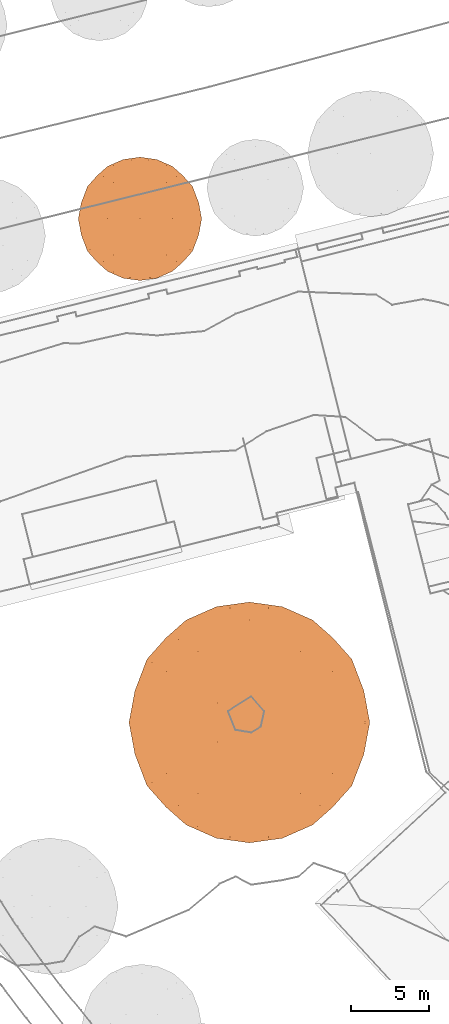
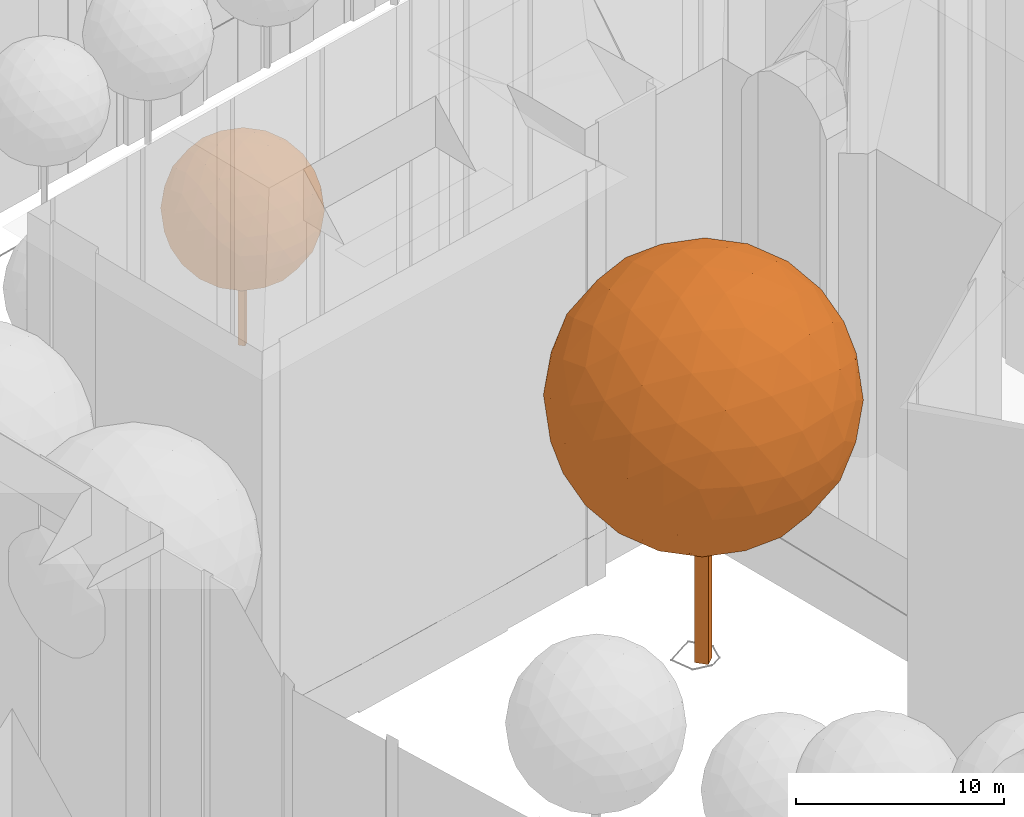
# Not in any storey, part 275 of 494: 2 proxies.
"""IFC2X3 model written with IfcOpenShell, lengths in metres."""

from ifc_helpers import new_model, si_unit, frame, origin_with_axes, place, context, subcontext, project, faceted_brep, element, save


model = new_model("IFC2X3")

# Units and contexts
model_context = context("Model", 3, precision=1e-05, world=origin_with_axes())
body_context = subcontext(model_context, "Body", "Model", "MODEL_VIEW")
ifc_project = project(units=[si_unit("AREAUNIT", "SQUARE_METRE"), si_unit("LENGTHUNIT", "METRE")], contexts=[model_context])

# Proxies
proxy_1_placement = place(None, frame((112.5617320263, 322.6537333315, 539.4587566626), z_axis=(0.0, 0.0, 1.0), x_axis=(1.0, 0.0, 0.0)))
element("IfcBuildingElementProxy", 1, at=proxy_1_placement, Name="Tree TR2 CD78", ObjectType="NOTDEFINED", context=body_context, shape_type="Brep", body=[
    faceted_brep([(0.0, 0.251183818, 0.0), (0.251183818, 0.0, 0.0), (0.0, -0.251183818, 0.0), (-0.251183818, 0.0, 0.0), (0.0, -0.251183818, 7.8911723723), (0.251183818, 0.0, 7.8911723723), (0.0, 0.251183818, 7.8911723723), (-0.251183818, 0.0, 7.8911723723)], [[[0, 1, 2]], [[2, 3, 0]], [[4, 5, 6]], [[6, 7, 4]], [[4, 7, 2]], [[2, 7, 3]], [[7, 6, 3]], [[3, 6, 0]], [[5, 4, 1]], [[1, 4, 2]], [[6, 5, 0]], [[0, 5, 1]]]),
    faceted_brep([(-2.0743174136, 3.3563160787, 7.8911723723), (-2.7373706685, 2.7699847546, 8.5249204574), (-1.7119447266, 3.4037328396, 8.9165983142), (-3.1920462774, 1.9727930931, 9.1104255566), (-2.3191573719, 2.7153167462, 9.5693304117), (-1.2192531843, 3.1920462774, 9.8639654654), (-3.4037328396, 1.0254259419, 9.603117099), (-2.7153167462, 1.6781580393, 10.2103297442), (-3.3563160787, 0.0, 9.965489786), (-2.7699847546, 0.633748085, 10.6285430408), (-1.9727930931, 1.2192531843, 11.0832186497), (-1.6781580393, 2.3191573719, 10.6064891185), (-0.633748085, 2.7373706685, 10.6611571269), (-1.0254259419, 1.7119447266, 11.2949052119), (0.0, 2.0743174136, 11.247488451), (-1.0781966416, 3.7954106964, 7.8911723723), (-0.6409993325, 3.752475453, 8.9283310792), (0.0, 3.9455861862, 7.8911723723), (0.0, 3.3563160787, 9.965489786), (0.633748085, 2.7373706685, 10.6611571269), (1.2192531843, 3.1920462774, 9.8639654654), (0.6409993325, 3.752475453, 8.9283310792), (1.0781966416, 3.7954106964, 7.8911723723), (1.7119447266, 3.4037328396, 8.9165983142), (2.0743174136, 3.3563160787, 7.8911723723), (-1.7119447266, 3.4037328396, 6.8657464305), (-0.6409993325, 3.752475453, 6.8540136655), (-1.2192531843, 3.1920462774, 5.9183792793), (0.6409993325, 3.752475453, 6.8540136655), (1.7119447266, 3.4037328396, 6.8657464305), (1.2192531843, 3.1920462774, 5.9183792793), (0.0, 3.3563160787, 5.8168549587), (-0.633748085, 2.7373706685, 5.1211876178), (0.633748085, 2.7373706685, 5.1211876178), (0.0, 2.0743174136, 4.5348562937), (-2.7373706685, 2.7699847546, 7.2574242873), (-2.3191573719, 2.7153167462, 6.213014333), (-3.1920462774, 1.9727930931, 6.671919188), (-1.6781580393, 2.3191573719, 5.1758556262), (-1.0254259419, 1.7119447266, 4.4874395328), (-1.9727930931, 1.2192531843, 4.699126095), (-2.7153167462, 1.6781580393, 5.5720150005), (-3.4037328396, 1.0254259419, 6.1792276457), (-2.7699847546, 0.633748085, 5.1538017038), (-3.3563160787, 0.0, 5.8168549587), (-3.3563160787, 2.0743174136, 7.8911723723), (-3.752475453, 1.0371587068, 7.2501730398), (-3.7954106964, 0.0, 6.8129757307), (-3.9455861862, 0.0, 7.8911723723), (-3.752475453, 1.0371587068, 8.5321717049), (-3.7954106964, 0.0, 8.969369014), (2.7373706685, 2.7699847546, 8.5249204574), (2.3191573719, 2.7153167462, 9.5693304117), (3.1920462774, 1.9727930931, 9.1104255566), (1.6781580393, 2.3191573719, 10.6064891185), (1.0254259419, 1.7119447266, 11.2949052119), (1.9727930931, 1.2192531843, 11.0832186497), (2.7153167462, 1.6781580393, 10.2103297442), (3.4037328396, 1.0254259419, 9.603117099), (2.7699847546, 0.633748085, 10.6285430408), (3.3563160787, 0.0, 9.965489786), (0.0, 1.0781966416, 11.6865830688), (-1.0371587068, 0.6409993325, 11.6436478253), (0.0, 0.0, 11.8367585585), (-2.0743174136, 0.0, 11.247488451), (-2.7699847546, -0.633748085, 10.6285430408), (-1.9727930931, -1.2192531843, 11.0832186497), (-1.0371587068, -0.6409993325, 11.6436478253), (0.0, -1.0781966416, 11.6865830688), (-1.0254259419, -1.7119447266, 11.2949052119), (0.0, -2.0743174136, 11.247488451), (-3.4037328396, -1.0254259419, 9.603117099), (-3.752475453, -1.0371587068, 8.5321717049), (-3.1920462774, -1.9727930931, 9.1104255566), (-3.752475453, -1.0371587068, 7.2501730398), (-3.4037328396, -1.0254259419, 6.1792276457), (-3.1920462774, -1.9727930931, 6.671919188), (-3.3563160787, -2.0743174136, 7.8911723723), (-2.7373706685, -2.7699847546, 8.5249204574), (-2.7373706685, -2.7699847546, 7.2574242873), (-2.0743174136, -3.3563160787, 7.8911723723), (-2.7699847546, -0.633748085, 5.1538017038), (-2.0743174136, 0.0, 4.5348562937), (-1.9727930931, -1.2192531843, 4.699126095), (-1.0371587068, 0.6409993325, 4.1386969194), (0.0, 1.0781966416, 4.0957616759), (0.0, 0.0, 3.9455861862), (-1.0371587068, -0.6409993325, 4.1386969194), (-1.0254259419, -1.7119447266, 4.4874395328), (0.0, -1.0781966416, 4.0957616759), (0.0, -2.0743174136, 4.5348562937), (1.0254259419, 1.7119447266, 4.4874395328), (1.6781580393, 2.3191573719, 5.1758556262), (1.9727930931, 1.2192531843, 4.699126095), (2.3191573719, 2.7153167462, 6.213014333), (2.7373706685, 2.7699847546, 7.2574242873), (3.1920462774, 1.9727930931, 6.671919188), (2.7153167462, 1.6781580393, 5.5720150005), (2.7699847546, 0.633748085, 5.1538017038), (3.4037328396, 1.0254259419, 6.1792276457), (3.3563160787, 0.0, 5.8168549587), (2.0743174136, -3.3563160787, 7.8911723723), (2.7373706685, -2.7699847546, 8.5249204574), (1.7119447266, -3.4037328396, 8.9165983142), (3.1920462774, -1.9727930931, 9.1104255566), (2.3191573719, -2.7153167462, 9.5693304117), (1.2192531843, -3.1920462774, 9.8639654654), (3.4037328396, -1.0254259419, 9.603117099), (2.7153167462, -1.6781580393, 10.2103297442), (2.7699847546, -0.633748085, 10.6285430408), (1.9727930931, -1.2192531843, 11.0832186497), (1.6781580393, -2.3191573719, 10.6064891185), (0.633748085, -2.7373706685, 10.6611571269), (1.0254259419, -1.7119447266, 11.2949052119), (1.0781966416, -3.7954106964, 7.8911723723), (0.6409993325, -3.752475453, 8.9283310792), (0.0, -3.9455861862, 7.8911723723), (0.0, -3.3563160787, 9.965489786), (-0.633748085, -2.7373706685, 10.6611571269), (-1.2192531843, -3.1920462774, 9.8639654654), (-0.6409993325, -3.752475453, 8.9283310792), (-1.0781966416, -3.7954106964, 7.8911723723), (-1.7119447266, -3.4037328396, 8.9165983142), (1.7119447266, -3.4037328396, 6.8657464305), (0.6409993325, -3.752475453, 6.8540136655), (1.2192531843, -3.1920462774, 5.9183792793), (-0.6409993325, -3.752475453, 6.8540136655), (-1.7119447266, -3.4037328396, 6.8657464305), (-1.2192531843, -3.1920462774, 5.9183792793), (0.0, -3.3563160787, 5.8168549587), (0.633748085, -2.7373706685, 5.1211876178), (-0.633748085, -2.7373706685, 5.1211876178), (2.7373706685, -2.7699847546, 7.2574242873), (2.3191573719, -2.7153167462, 6.213014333), (3.1920462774, -1.9727930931, 6.671919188), (1.6781580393, -2.3191573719, 5.1758556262), (1.0254259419, -1.7119447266, 4.4874395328), (1.9727930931, -1.2192531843, 4.699126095), (2.7153167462, -1.6781580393, 5.5720150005), (3.4037328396, -1.0254259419, 6.1792276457), (2.7699847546, -0.633748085, 5.1538017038), (3.3563160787, -2.0743174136, 7.8911723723), (3.752475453, -1.0371587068, 7.2501730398), (3.7954106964, 0.0, 6.8129757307), (3.9455861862, 0.0, 7.8911723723), (3.752475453, -1.0371587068, 8.5321717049), (3.7954106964, 0.0, 8.969369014), (1.0371587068, -0.6409993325, 11.6436478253), (2.0743174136, 0.0, 11.247488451), (1.0371587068, 0.6409993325, 11.6436478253), (-2.3191573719, -2.7153167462, 9.5693304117), (-1.6781580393, -2.3191573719, 10.6064891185), (-2.7153167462, -1.6781580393, 10.2103297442), (-1.6781580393, -2.3191573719, 5.1758556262), (-2.3191573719, -2.7153167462, 6.213014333), (-2.7153167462, -1.6781580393, 5.5720150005), (2.0743174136, 0.0, 4.5348562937), (1.0371587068, -0.6409993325, 4.1386969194), (1.0371587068, 0.6409993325, 4.1386969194), (3.752475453, 1.0371587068, 8.5321717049), (3.752475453, 1.0371587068, 7.2501730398), (3.3563160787, 2.0743174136, 7.8911723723)], [[[0, 1, 2]], [[1, 3, 4]], [[2, 4, 5]], [[1, 4, 2]], [[3, 6, 7]], [[6, 8, 9]], [[7, 9, 10]], [[6, 9, 7]], [[5, 11, 12]], [[11, 10, 13]], [[12, 13, 14]], [[11, 13, 12]], [[3, 7, 4]], [[7, 10, 11]], [[4, 11, 5]], [[7, 11, 4]], [[0, 2, 15]], [[2, 5, 16]], [[15, 16, 17]], [[2, 16, 15]], [[5, 12, 18]], [[12, 14, 19]], [[18, 19, 20]], [[12, 19, 18]], [[17, 21, 22]], [[21, 20, 23]], [[22, 23, 24]], [[21, 23, 22]], [[5, 18, 16]], [[18, 20, 21]], [[16, 21, 17]], [[18, 21, 16]], [[0, 15, 25]], [[15, 17, 26]], [[25, 26, 27]], [[15, 26, 25]], [[17, 22, 28]], [[22, 24, 29]], [[28, 29, 30]], [[22, 29, 28]], [[27, 31, 32]], [[31, 30, 33]], [[32, 33, 34]], [[31, 33, 32]], [[17, 28, 26]], [[28, 30, 31]], [[26, 31, 27]], [[28, 31, 26]], [[0, 25, 35]], [[25, 27, 36]], [[35, 36, 37]], [[25, 36, 35]], [[27, 32, 38]], [[32, 34, 39]], [[38, 39, 40]], [[32, 39, 38]], [[37, 41, 42]], [[41, 40, 43]], [[42, 43, 44]], [[41, 43, 42]], [[27, 38, 36]], [[38, 40, 41]], [[36, 41, 37]], [[38, 41, 36]], [[0, 35, 1]], [[35, 37, 45]], [[1, 45, 3]], [[35, 45, 1]], [[37, 42, 46]], [[42, 44, 47]], [[46, 47, 48]], [[42, 47, 46]], [[3, 49, 6]], [[49, 48, 50]], [[6, 50, 8]], [[49, 50, 6]], [[37, 46, 45]], [[46, 48, 49]], [[45, 49, 3]], [[46, 49, 45]], [[24, 23, 51]], [[23, 20, 52]], [[51, 52, 53]], [[23, 52, 51]], [[20, 19, 54]], [[19, 14, 55]], [[54, 55, 56]], [[19, 55, 54]], [[53, 57, 58]], [[57, 56, 59]], [[58, 59, 60]], [[57, 59, 58]], [[20, 54, 52]], [[54, 56, 57]], [[52, 57, 53]], [[54, 57, 52]], [[14, 13, 61]], [[13, 10, 62]], [[61, 62, 63]], [[13, 62, 61]], [[10, 9, 64]], [[9, 8, 65]], [[64, 65, 66]], [[9, 65, 64]], [[63, 67, 68]], [[67, 66, 69]], [[68, 69, 70]], [[67, 69, 68]], [[10, 64, 62]], [[64, 66, 67]], [[62, 67, 63]], [[64, 67, 62]], [[8, 50, 71]], [[50, 48, 72]], [[71, 72, 73]], [[50, 72, 71]], [[48, 47, 74]], [[47, 44, 75]], [[74, 75, 76]], [[47, 75, 74]], [[73, 77, 78]], [[77, 76, 79]], [[78, 79, 80]], [[77, 79, 78]], [[48, 74, 72]], [[74, 76, 77]], [[72, 77, 73]], [[74, 77, 72]], [[44, 43, 81]], [[43, 40, 82]], [[81, 82, 83]], [[43, 82, 81]], [[40, 39, 84]], [[39, 34, 85]], [[84, 85, 86]], [[39, 85, 84]], [[83, 87, 88]], [[87, 86, 89]], [[88, 89, 90]], [[87, 89, 88]], [[40, 84, 82]], [[84, 86, 87]], [[82, 87, 83]], [[84, 87, 82]], [[34, 33, 91]], [[33, 30, 92]], [[91, 92, 93]], [[33, 92, 91]], [[30, 29, 94]], [[29, 24, 95]], [[94, 95, 96]], [[29, 95, 94]], [[93, 97, 98]], [[97, 96, 99]], [[98, 99, 100]], [[97, 99, 98]], [[30, 94, 92]], [[94, 96, 97]], [[92, 97, 93]], [[94, 97, 92]], [[101, 102, 103]], [[102, 104, 105]], [[103, 105, 106]], [[102, 105, 103]], [[104, 107, 108]], [[107, 60, 109]], [[108, 109, 110]], [[107, 109, 108]], [[106, 111, 112]], [[111, 110, 113]], [[112, 113, 70]], [[111, 113, 112]], [[104, 108, 105]], [[108, 110, 111]], [[105, 111, 106]], [[108, 111, 105]], [[101, 103, 114]], [[103, 106, 115]], [[114, 115, 116]], [[103, 115, 114]], [[106, 112, 117]], [[112, 70, 118]], [[117, 118, 119]], [[112, 118, 117]], [[116, 120, 121]], [[120, 119, 122]], [[121, 122, 80]], [[120, 122, 121]], [[106, 117, 115]], [[117, 119, 120]], [[115, 120, 116]], [[117, 120, 115]], [[101, 114, 123]], [[114, 116, 124]], [[123, 124, 125]], [[114, 124, 123]], [[116, 121, 126]], [[121, 80, 127]], [[126, 127, 128]], [[121, 127, 126]], [[125, 129, 130]], [[129, 128, 131]], [[130, 131, 90]], [[129, 131, 130]], [[116, 126, 124]], [[126, 128, 129]], [[124, 129, 125]], [[126, 129, 124]], [[101, 123, 132]], [[123, 125, 133]], [[132, 133, 134]], [[123, 133, 132]], [[125, 130, 135]], [[130, 90, 136]], [[135, 136, 137]], [[130, 136, 135]], [[134, 138, 139]], [[138, 137, 140]], [[139, 140, 100]], [[138, 140, 139]], [[125, 135, 133]], [[135, 137, 138]], [[133, 138, 134]], [[135, 138, 133]], [[101, 132, 102]], [[132, 134, 141]], [[102, 141, 104]], [[132, 141, 102]], [[134, 139, 142]], [[139, 100, 143]], [[142, 143, 144]], [[139, 143, 142]], [[104, 145, 107]], [[145, 144, 146]], [[107, 146, 60]], [[145, 146, 107]], [[134, 142, 141]], [[142, 144, 145]], [[141, 145, 104]], [[142, 145, 141]], [[70, 113, 68]], [[113, 110, 147]], [[68, 147, 63]], [[113, 147, 68]], [[110, 109, 148]], [[109, 60, 59]], [[148, 59, 56]], [[109, 59, 148]], [[63, 149, 61]], [[149, 56, 55]], [[61, 55, 14]], [[149, 55, 61]], [[110, 148, 147]], [[148, 56, 149]], [[147, 149, 63]], [[148, 149, 147]], [[80, 122, 78]], [[122, 119, 150]], [[78, 150, 73]], [[122, 150, 78]], [[119, 118, 151]], [[118, 70, 69]], [[151, 69, 66]], [[118, 69, 151]], [[73, 152, 71]], [[152, 66, 65]], [[71, 65, 8]], [[152, 65, 71]], [[119, 151, 150]], [[151, 66, 152]], [[150, 152, 73]], [[151, 152, 150]], [[90, 131, 88]], [[131, 128, 153]], [[88, 153, 83]], [[131, 153, 88]], [[128, 127, 154]], [[127, 80, 79]], [[154, 79, 76]], [[127, 79, 154]], [[83, 155, 81]], [[155, 76, 75]], [[81, 75, 44]], [[155, 75, 81]], [[128, 154, 153]], [[154, 76, 155]], [[153, 155, 83]], [[154, 155, 153]], [[100, 140, 98]], [[140, 137, 156]], [[98, 156, 93]], [[140, 156, 98]], [[137, 136, 157]], [[136, 90, 89]], [[157, 89, 86]], [[136, 89, 157]], [[93, 158, 91]], [[158, 86, 85]], [[91, 85, 34]], [[158, 85, 91]], [[137, 157, 156]], [[157, 86, 158]], [[156, 158, 93]], [[157, 158, 156]], [[60, 146, 58]], [[146, 144, 159]], [[58, 159, 53]], [[146, 159, 58]], [[144, 143, 160]], [[143, 100, 99]], [[160, 99, 96]], [[143, 99, 160]], [[53, 161, 51]], [[161, 96, 95]], [[51, 95, 24]], [[161, 95, 51]], [[144, 160, 159]], [[160, 96, 161]], [[159, 161, 53]], [[160, 161, 159]]]),
])
proxy_2_placement = place(None, frame((119.5577320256, 290.4467343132, 537.9877785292), z_axis=(0.0, 0.0, 1.0), x_axis=(1.0, 0.0, 0.0)))
element("IfcBuildingElementProxy", 2, at=proxy_2_placement, Name="Tree TR4 CD153", ObjectType="NOTDEFINED", context=body_context, shape_type="Brep", body=[
    faceted_brep([(0.0, 0.4900952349, 0.0), (0.4900952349, 0.0, 0.0), (0.0, -0.4900952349, 0.0), (-0.4900952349, 0.0, 0.0), (0.0, -0.4900952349, 15.3967958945), (0.4900952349, 0.0, 15.3967958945), (0.0, 0.4900952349, 15.3967958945), (-0.4900952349, 0.0, 15.3967958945)], [[[0, 1, 2]], [[2, 3, 0]], [[4, 5, 6]], [[6, 7, 4]], [[4, 7, 2]], [[2, 7, 3]], [[7, 6, 3]], [[3, 6, 0]], [[5, 4, 1]], [[1, 4, 2]], [[6, 5, 0]], [[0, 5, 1]]]),
    faceted_brep([(-4.0472873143, 6.5486484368, 15.3967958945), (-5.3409982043, 5.4046329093, 16.6333282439), (-3.3402468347, 6.6411652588, 17.3975472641), (-6.2281347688, 3.8491989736, 17.7757316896), (-4.5250047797, 5.2979678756, 18.6711201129), (-2.3789357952, 6.2281347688, 19.2459948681), (-6.6411652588, 2.0007513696, 18.7370427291), (-5.2979678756, 3.2743242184, 19.9218006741), (-6.5486484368, 0.0, 19.4440832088), (-5.4046329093, 1.2365323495, 20.7377940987), (-3.8491989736, 2.3789357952, 21.6249306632), (-3.2743242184, 4.5250047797, 20.69476377), (-1.2365323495, 5.3409982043, 20.8014288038), (-2.0007513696, 3.3402468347, 22.0379611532), (0.0, 4.0472873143, 21.9454443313), (-2.1037144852, 7.4053842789, 15.3967958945), (-1.2506805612, 7.3216115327, 17.4204395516), (0.0, 7.6983979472, 15.3967958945), (0.0, 6.5486484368, 19.4440832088), (1.2365323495, 5.3409982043, 20.8014288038), (2.3789357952, 6.2281347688, 19.2459948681), (1.2506805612, 7.3216115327, 17.4204395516), (2.1037144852, 7.4053842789, 15.3967958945), (3.3402468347, 6.6411652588, 17.3975472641), (4.0472873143, 6.5486484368, 15.3967958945), (-3.3402468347, 6.6411652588, 13.3960445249), (-1.2506805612, 7.3216115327, 13.3731522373), (-2.3789357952, 6.2281347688, 11.5475969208), (1.2506805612, 7.3216115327, 13.3731522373), (3.3402468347, 6.6411652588, 13.3960445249), (2.3789357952, 6.2281347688, 11.5475969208), (0.0, 6.5486484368, 11.3495085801), (-1.2365323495, 5.3409982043, 9.9921629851), (1.2365323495, 5.3409982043, 9.9921629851), (0.0, 4.0472873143, 8.8481474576), (-5.3409982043, 5.4046329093, 14.160263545), (-4.5250047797, 5.2979678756, 12.122471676), (-6.2281347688, 3.8491989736, 13.0178600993), (-3.2743242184, 4.5250047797, 10.0988280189), (-2.0007513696, 3.3402468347, 8.7556306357), (-3.8491989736, 2.3789357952, 9.1686611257), (-5.2979678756, 3.2743242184, 10.8717911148), (-6.6411652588, 2.0007513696, 12.0565490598), (-5.4046329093, 1.2365323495, 10.0557976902), (-6.5486484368, 0.0, 11.3495085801), (-6.5486484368, 4.0472873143, 15.3967958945), (-7.3216115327, 2.0236436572, 14.1461153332), (-7.4053842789, 0.0, 13.2930814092), (-7.6983979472, 0.0, 15.3967958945), (-7.3216115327, 2.0236436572, 16.6474764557), (-7.4053842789, 0.0, 17.5005103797), (5.3409982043, 5.4046329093, 16.6333282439), (4.5250047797, 5.2979678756, 18.6711201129), (6.2281347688, 3.8491989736, 17.7757316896), (3.2743242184, 4.5250047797, 20.69476377), (2.0007513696, 3.3402468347, 22.0379611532), (3.8491989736, 2.3789357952, 21.6249306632), (5.2979678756, 3.2743242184, 19.9218006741), (6.6411652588, 2.0007513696, 18.7370427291), (5.4046329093, 1.2365323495, 20.7377940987), (6.5486484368, 0.0, 19.4440832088), (0.0, 2.1037144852, 22.8021801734), (-2.0236436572, 1.2506805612, 22.7184074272), (0.0, 0.0, 23.0951938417), (-4.0472873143, 0.0, 21.9454443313), (-5.4046329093, -1.2365323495, 20.7377940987), (-3.8491989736, -2.3789357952, 21.6249306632), (-2.0236436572, -1.2506805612, 22.7184074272), (0.0, -2.1037144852, 22.8021801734), (-2.0007513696, -3.3402468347, 22.0379611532), (0.0, -4.0472873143, 21.9454443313), (-6.6411652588, -2.0007513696, 18.7370427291), (-7.3216115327, -2.0236436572, 16.6474764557), (-6.2281347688, -3.8491989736, 17.7757316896), (-7.3216115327, -2.0236436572, 14.1461153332), (-6.6411652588, -2.0007513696, 12.0565490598), (-6.2281347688, -3.8491989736, 13.0178600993), (-6.5486484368, -4.0472873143, 15.3967958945), (-5.3409982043, -5.4046329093, 16.6333282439), (-5.3409982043, -5.4046329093, 14.160263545), (-4.0472873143, -6.5486484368, 15.3967958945), (-5.4046329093, -1.2365323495, 10.0557976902), (-4.0472873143, 0.0, 8.8481474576), (-3.8491989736, -2.3789357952, 9.1686611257), (-2.0236436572, 1.2506805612, 8.0751843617), (0.0, 2.1037144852, 7.9914116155), (0.0, 0.0, 7.6983979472), (-2.0236436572, -1.2506805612, 8.0751843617), (-2.0007513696, -3.3402468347, 8.7556306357), (0.0, -2.1037144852, 7.9914116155), (0.0, -4.0472873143, 8.8481474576), (2.0007513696, 3.3402468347, 8.7556306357), (3.2743242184, 4.5250047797, 10.0988280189), (3.8491989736, 2.3789357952, 9.1686611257), (4.5250047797, 5.2979678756, 12.122471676), (5.3409982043, 5.4046329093, 14.160263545), (6.2281347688, 3.8491989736, 13.0178600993), (5.2979678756, 3.2743242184, 10.8717911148), (5.4046329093, 1.2365323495, 10.0557976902), (6.6411652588, 2.0007513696, 12.0565490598), (6.5486484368, 0.0, 11.3495085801), (4.0472873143, -6.5486484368, 15.3967958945), (5.3409982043, -5.4046329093, 16.6333282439), (3.3402468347, -6.6411652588, 17.3975472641), (6.2281347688, -3.8491989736, 17.7757316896), (4.5250047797, -5.2979678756, 18.6711201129), (2.3789357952, -6.2281347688, 19.2459948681), (6.6411652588, -2.0007513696, 18.7370427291), (5.2979678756, -3.2743242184, 19.9218006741), (5.4046329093, -1.2365323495, 20.7377940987), (3.8491989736, -2.3789357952, 21.6249306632), (3.2743242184, -4.5250047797, 20.69476377), (1.2365323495, -5.3409982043, 20.8014288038), (2.0007513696, -3.3402468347, 22.0379611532), (2.1037144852, -7.4053842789, 15.3967958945), (1.2506805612, -7.3216115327, 17.4204395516), (0.0, -7.6983979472, 15.3967958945), (0.0, -6.5486484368, 19.4440832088), (-1.2365323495, -5.3409982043, 20.8014288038), (-2.3789357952, -6.2281347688, 19.2459948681), (-1.2506805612, -7.3216115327, 17.4204395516), (-2.1037144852, -7.4053842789, 15.3967958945), (-3.3402468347, -6.6411652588, 17.3975472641), (3.3402468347, -6.6411652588, 13.3960445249), (1.2506805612, -7.3216115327, 13.3731522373), (2.3789357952, -6.2281347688, 11.5475969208), (-1.2506805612, -7.3216115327, 13.3731522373), (-3.3402468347, -6.6411652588, 13.3960445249), (-2.3789357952, -6.2281347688, 11.5475969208), (0.0, -6.5486484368, 11.3495085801), (1.2365323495, -5.3409982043, 9.9921629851), (-1.2365323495, -5.3409982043, 9.9921629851), (5.3409982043, -5.4046329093, 14.160263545), (4.5250047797, -5.2979678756, 12.122471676), (6.2281347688, -3.8491989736, 13.0178600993), (3.2743242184, -4.5250047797, 10.0988280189), (2.0007513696, -3.3402468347, 8.7556306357), (3.8491989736, -2.3789357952, 9.1686611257), (5.2979678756, -3.2743242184, 10.8717911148), (6.6411652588, -2.0007513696, 12.0565490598), (5.4046329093, -1.2365323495, 10.0557976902), (6.5486484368, -4.0472873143, 15.3967958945), (7.3216115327, -2.0236436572, 14.1461153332), (7.4053842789, 0.0, 13.2930814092), (7.6983979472, 0.0, 15.3967958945), (7.3216115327, -2.0236436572, 16.6474764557), (7.4053842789, 0.0, 17.5005103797), (2.0236436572, -1.2506805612, 22.7184074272), (4.0472873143, 0.0, 21.9454443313), (2.0236436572, 1.2506805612, 22.7184074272), (-4.5250047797, -5.2979678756, 18.6711201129), (-3.2743242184, -4.5250047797, 20.69476377), (-5.2979678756, -3.2743242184, 19.9218006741), (-3.2743242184, -4.5250047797, 10.0988280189), (-4.5250047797, -5.2979678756, 12.122471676), (-5.2979678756, -3.2743242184, 10.8717911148), (4.0472873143, 0.0, 8.8481474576), (2.0236436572, -1.2506805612, 8.0751843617), (2.0236436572, 1.2506805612, 8.0751843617), (7.3216115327, 2.0236436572, 16.6474764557), (7.3216115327, 2.0236436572, 14.1461153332), (6.5486484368, 4.0472873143, 15.3967958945)], [[[0, 1, 2]], [[1, 3, 4]], [[2, 4, 5]], [[1, 4, 2]], [[3, 6, 7]], [[6, 8, 9]], [[7, 9, 10]], [[6, 9, 7]], [[5, 11, 12]], [[11, 10, 13]], [[12, 13, 14]], [[11, 13, 12]], [[3, 7, 4]], [[7, 10, 11]], [[4, 11, 5]], [[7, 11, 4]], [[0, 2, 15]], [[2, 5, 16]], [[15, 16, 17]], [[2, 16, 15]], [[5, 12, 18]], [[12, 14, 19]], [[18, 19, 20]], [[12, 19, 18]], [[17, 21, 22]], [[21, 20, 23]], [[22, 23, 24]], [[21, 23, 22]], [[5, 18, 16]], [[18, 20, 21]], [[16, 21, 17]], [[18, 21, 16]], [[0, 15, 25]], [[15, 17, 26]], [[25, 26, 27]], [[15, 26, 25]], [[17, 22, 28]], [[22, 24, 29]], [[28, 29, 30]], [[22, 29, 28]], [[27, 31, 32]], [[31, 30, 33]], [[32, 33, 34]], [[31, 33, 32]], [[17, 28, 26]], [[28, 30, 31]], [[26, 31, 27]], [[28, 31, 26]], [[0, 25, 35]], [[25, 27, 36]], [[35, 36, 37]], [[25, 36, 35]], [[27, 32, 38]], [[32, 34, 39]], [[38, 39, 40]], [[32, 39, 38]], [[37, 41, 42]], [[41, 40, 43]], [[42, 43, 44]], [[41, 43, 42]], [[27, 38, 36]], [[38, 40, 41]], [[36, 41, 37]], [[38, 41, 36]], [[0, 35, 1]], [[35, 37, 45]], [[1, 45, 3]], [[35, 45, 1]], [[37, 42, 46]], [[42, 44, 47]], [[46, 47, 48]], [[42, 47, 46]], [[3, 49, 6]], [[49, 48, 50]], [[6, 50, 8]], [[49, 50, 6]], [[37, 46, 45]], [[46, 48, 49]], [[45, 49, 3]], [[46, 49, 45]], [[24, 23, 51]], [[23, 20, 52]], [[51, 52, 53]], [[23, 52, 51]], [[20, 19, 54]], [[19, 14, 55]], [[54, 55, 56]], [[19, 55, 54]], [[53, 57, 58]], [[57, 56, 59]], [[58, 59, 60]], [[57, 59, 58]], [[20, 54, 52]], [[54, 56, 57]], [[52, 57, 53]], [[54, 57, 52]], [[14, 13, 61]], [[13, 10, 62]], [[61, 62, 63]], [[13, 62, 61]], [[10, 9, 64]], [[9, 8, 65]], [[64, 65, 66]], [[9, 65, 64]], [[63, 67, 68]], [[67, 66, 69]], [[68, 69, 70]], [[67, 69, 68]], [[10, 64, 62]], [[64, 66, 67]], [[62, 67, 63]], [[64, 67, 62]], [[8, 50, 71]], [[50, 48, 72]], [[71, 72, 73]], [[50, 72, 71]], [[48, 47, 74]], [[47, 44, 75]], [[74, 75, 76]], [[47, 75, 74]], [[73, 77, 78]], [[77, 76, 79]], [[78, 79, 80]], [[77, 79, 78]], [[48, 74, 72]], [[74, 76, 77]], [[72, 77, 73]], [[74, 77, 72]], [[44, 43, 81]], [[43, 40, 82]], [[81, 82, 83]], [[43, 82, 81]], [[40, 39, 84]], [[39, 34, 85]], [[84, 85, 86]], [[39, 85, 84]], [[83, 87, 88]], [[87, 86, 89]], [[88, 89, 90]], [[87, 89, 88]], [[40, 84, 82]], [[84, 86, 87]], [[82, 87, 83]], [[84, 87, 82]], [[34, 33, 91]], [[33, 30, 92]], [[91, 92, 93]], [[33, 92, 91]], [[30, 29, 94]], [[29, 24, 95]], [[94, 95, 96]], [[29, 95, 94]], [[93, 97, 98]], [[97, 96, 99]], [[98, 99, 100]], [[97, 99, 98]], [[30, 94, 92]], [[94, 96, 97]], [[92, 97, 93]], [[94, 97, 92]], [[101, 102, 103]], [[102, 104, 105]], [[103, 105, 106]], [[102, 105, 103]], [[104, 107, 108]], [[107, 60, 109]], [[108, 109, 110]], [[107, 109, 108]], [[106, 111, 112]], [[111, 110, 113]], [[112, 113, 70]], [[111, 113, 112]], [[104, 108, 105]], [[108, 110, 111]], [[105, 111, 106]], [[108, 111, 105]], [[101, 103, 114]], [[103, 106, 115]], [[114, 115, 116]], [[103, 115, 114]], [[106, 112, 117]], [[112, 70, 118]], [[117, 118, 119]], [[112, 118, 117]], [[116, 120, 121]], [[120, 119, 122]], [[121, 122, 80]], [[120, 122, 121]], [[106, 117, 115]], [[117, 119, 120]], [[115, 120, 116]], [[117, 120, 115]], [[101, 114, 123]], [[114, 116, 124]], [[123, 124, 125]], [[114, 124, 123]], [[116, 121, 126]], [[121, 80, 127]], [[126, 127, 128]], [[121, 127, 126]], [[125, 129, 130]], [[129, 128, 131]], [[130, 131, 90]], [[129, 131, 130]], [[116, 126, 124]], [[126, 128, 129]], [[124, 129, 125]], [[126, 129, 124]], [[101, 123, 132]], [[123, 125, 133]], [[132, 133, 134]], [[123, 133, 132]], [[125, 130, 135]], [[130, 90, 136]], [[135, 136, 137]], [[130, 136, 135]], [[134, 138, 139]], [[138, 137, 140]], [[139, 140, 100]], [[138, 140, 139]], [[125, 135, 133]], [[135, 137, 138]], [[133, 138, 134]], [[135, 138, 133]], [[101, 132, 102]], [[132, 134, 141]], [[102, 141, 104]], [[132, 141, 102]], [[134, 139, 142]], [[139, 100, 143]], [[142, 143, 144]], [[139, 143, 142]], [[104, 145, 107]], [[145, 144, 146]], [[107, 146, 60]], [[145, 146, 107]], [[134, 142, 141]], [[142, 144, 145]], [[141, 145, 104]], [[142, 145, 141]], [[70, 113, 68]], [[113, 110, 147]], [[68, 147, 63]], [[113, 147, 68]], [[110, 109, 148]], [[109, 60, 59]], [[148, 59, 56]], [[109, 59, 148]], [[63, 149, 61]], [[149, 56, 55]], [[61, 55, 14]], [[149, 55, 61]], [[110, 148, 147]], [[148, 56, 149]], [[147, 149, 63]], [[148, 149, 147]], [[80, 122, 78]], [[122, 119, 150]], [[78, 150, 73]], [[122, 150, 78]], [[119, 118, 151]], [[118, 70, 69]], [[151, 69, 66]], [[118, 69, 151]], [[73, 152, 71]], [[152, 66, 65]], [[71, 65, 8]], [[152, 65, 71]], [[119, 151, 150]], [[151, 66, 152]], [[150, 152, 73]], [[151, 152, 150]], [[90, 131, 88]], [[131, 128, 153]], [[88, 153, 83]], [[131, 153, 88]], [[128, 127, 154]], [[127, 80, 79]], [[154, 79, 76]], [[127, 79, 154]], [[83, 155, 81]], [[155, 76, 75]], [[81, 75, 44]], [[155, 75, 81]], [[128, 154, 153]], [[154, 76, 155]], [[153, 155, 83]], [[154, 155, 153]], [[100, 140, 98]], [[140, 137, 156]], [[98, 156, 93]], [[140, 156, 98]], [[137, 136, 157]], [[136, 90, 89]], [[157, 89, 86]], [[136, 89, 157]], [[93, 158, 91]], [[158, 86, 85]], [[91, 85, 34]], [[158, 85, 91]], [[137, 157, 156]], [[157, 86, 158]], [[156, 158, 93]], [[157, 158, 156]], [[60, 146, 58]], [[146, 144, 159]], [[58, 159, 53]], [[146, 159, 58]], [[144, 143, 160]], [[143, 100, 99]], [[160, 99, 96]], [[143, 99, 160]], [[53, 161, 51]], [[161, 96, 95]], [[51, 95, 24]], [[161, 95, 51]], [[144, 160, 159]], [[160, 96, 161]], [[159, 161, 53]], [[160, 161, 159]]]),
])

save(model, "model.ifc")
